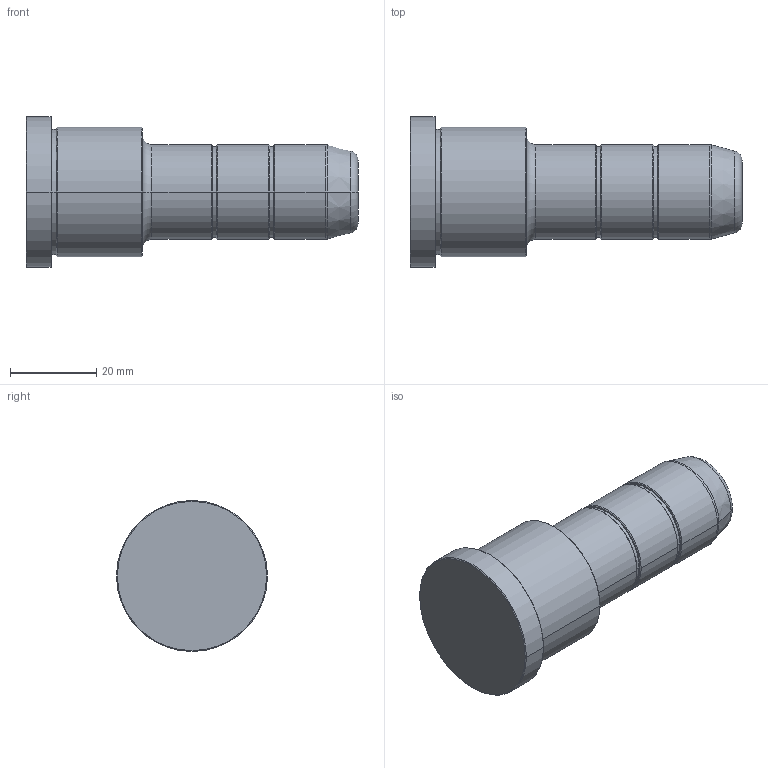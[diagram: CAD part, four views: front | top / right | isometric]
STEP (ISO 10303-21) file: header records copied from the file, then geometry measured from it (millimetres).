
FILE_DESCRIPTION (( 'STEP AP214' ), '1' );
FILE_NAME ('R01_027x22x050.STEP', '2015-03-05T14:04:13', ( 'TGL' ), ( '' ), 'SwSTEP 2.0', 'SolidWorks 2011', '' );
FILE_SCHEMA (( 'AUTOMOTIVE_DESIGN' ));
Length unit declared in the file: millimetre
Products named in the file (1): R01_027x22x050
Bounding box: 77 x 35 x 35 mm (x, y, z)
Volume: 39072.2 mm3; surface area: 7911 mm2
Topology: 1 solids, 1 shells, 49 faces, 96 edges, 56 vertices
Faces by surface type: cone 18, cylinder 16, plane 9, torus 6
Entity records: 1426 total; most frequent: DIRECTION 258, CARTESIAN_POINT 202, ORIENTED_EDGE 192, AXIS2_PLACEMENT_3D 112, EDGE_CURVE 96, CIRCLE 62, VERTEX_POINT 56, EDGE_LOOP 56
